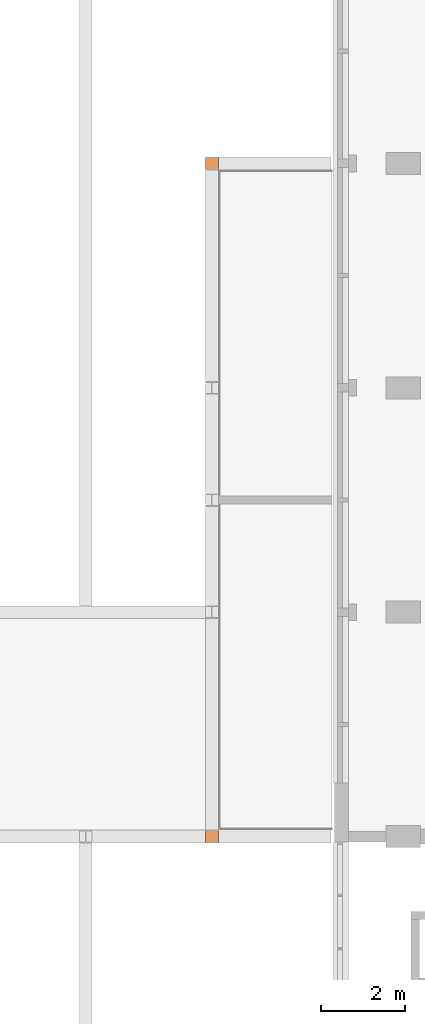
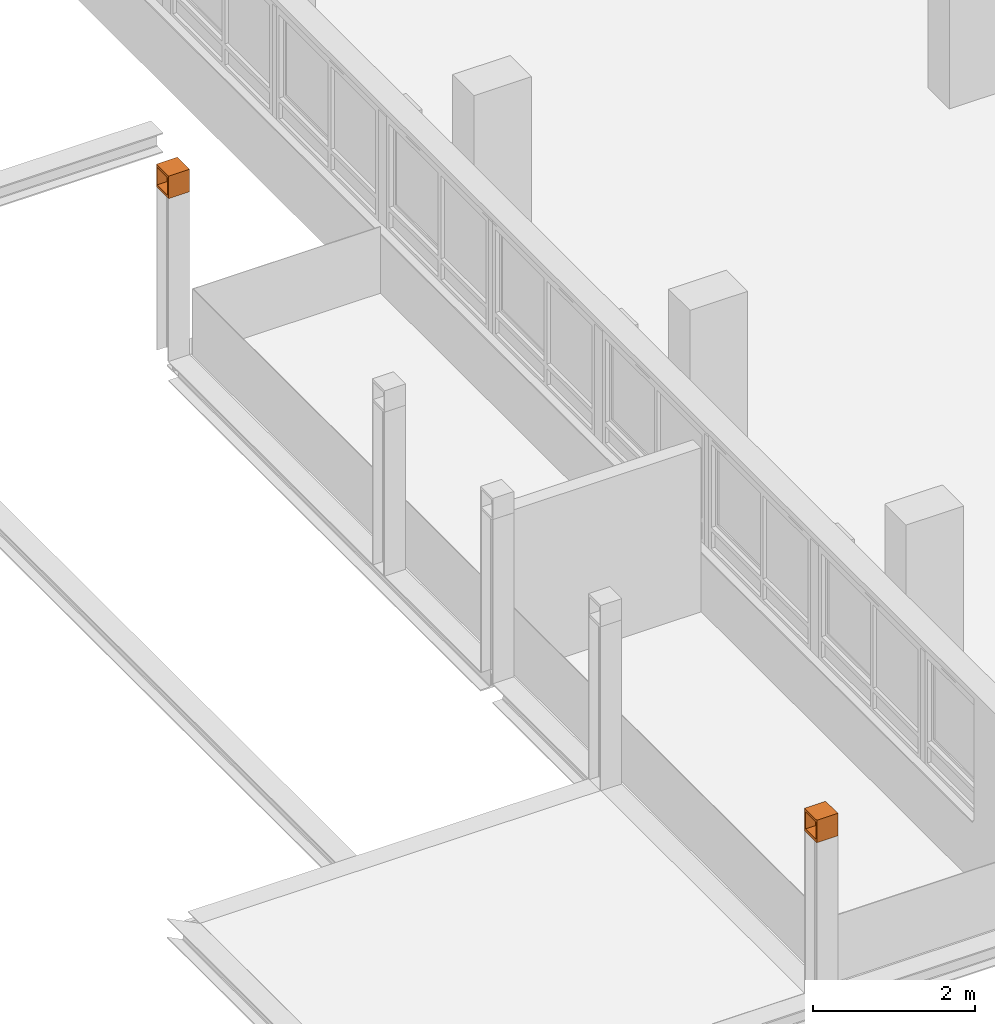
# One storey, part 22 of 22: 2 proxies.
"""IFC2X3 building model written with IfcOpenShell, lengths in millimetres."""

from ifc_helpers import new_model, entity, si_unit, converted_unit, derived_unit, money_unit, direction, frame, origin_with_axes, place, context, subcontext, project, spatial, faceted_brep, material, type_object, element, save


model = new_model("IFC2X3")

# Units and contexts
model_context = context("Model", 3, precision=0.01, world=origin_with_axes(), true_north=direction((0.0, 1.0)))
body_context = subcontext(model_context, "Body", "Model", "MODEL_VIEW")
ifc_project = project(units=[si_unit("LENGTHUNIT", "METRE", prefix="MILLI"), si_unit("AREAUNIT", "SQUARE_METRE"), si_unit("VOLUMEUNIT", "CUBIC_METRE"), converted_unit("PLANEANGLEUNIT", "DEGREE", entity("IfcPlaneAngleMeasure", 0.0174532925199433), si_unit("PLANEANGLEUNIT", "RADIAN"), dimensions=[0, 0, 0, 0, 0, 0, 0]), money_unit("EUR"), converted_unit("TIMEUNIT", "Year", entity("IfcTimeMeasure", 31557600.0), si_unit("TIMEUNIT", "SECOND"), dimensions=[0, 0, 1, 0, 0, 0, 0]), si_unit("MASSUNIT", "GRAM", prefix="KILO"), si_unit("THERMODYNAMICTEMPERATUREUNIT", "DEGREE_CELSIUS"), si_unit("LUMINOUSINTENSITYUNIT", "LUMEN"), si_unit("ENERGYUNIT", "JOULE", prefix="MEGA"), derived_unit("THERMALCONDUCTANCEUNIT", [(si_unit("POWERUNIT", "WATT"), 1), (si_unit("LENGTHUNIT", "METRE"), -1), (si_unit("THERMODYNAMICTEMPERATUREUNIT", "KELVIN"), -1)]), derived_unit("SPECIFICHEATCAPACITYUNIT", [(si_unit("ENERGYUNIT", "JOULE"), 1), (si_unit("MASSUNIT", "GRAM", prefix="KILO"), -1), (si_unit("THERMODYNAMICTEMPERATUREUNIT", "KELVIN"), -1)]), derived_unit("MASSDENSITYUNIT", [(si_unit("MASSUNIT", "GRAM", prefix="KILO"), 1), (si_unit("VOLUMEUNIT", "CUBIC_METRE"), -1)])], contexts=[model_context])

# Site, building, storey
site_placement = place(None, origin_with_axes())
site = spatial("IfcSite", under=ifc_project, at=site_placement, Name="Site", CompositionType="ELEMENT")
building_placement = place(site_placement, origin_with_axes())
building = spatial("IfcBuilding", under=site, at=building_placement, Name="Naam gebouw", CompositionType="ELEMENT")
storey_placement = place(building_placement, frame((0.0, 0.0, 8690.0), z_axis=(0.0, 0.0, 1.0), x_axis=(1.0, 0.0, 0.0)))
storey = spatial("IfcBuildingStorey", under=building, at=storey_placement, Name="2e verdieping V", CompositionType="ELEMENT", Elevation=8690.0)

# Proxies
ifc_material = material(Name="staal geanodiseerd RAL 7024")
building_element_proxy_type_1 = type_object("IfcBuildingElementProxyType", Name="Structural Connections 231:Structural Connections 1", PredefinedType="NOTDEFINED")
proxy_1_placement = place(storey_placement, frame((28651.00001269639, 22625.91242505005, -4539.999999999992), z_axis=(0.0, 0.0, 1.0), x_axis=(0.0, 1.0, 0.0)))
element("IfcBuildingElementProxy", 1, at=proxy_1_placement, inside=storey, type_object=building_element_proxy_type_1, material=ifc_material, Name="Structural Connections 231:Structural Connections 1", context=body_context, shape_type="Brep", body=[
    faceted_brep([(5180.000001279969, 11209.00001265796, 7010.0), (5480.00000127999, 11209.00001265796, 7010.0), (5480.00000127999, 11209.00001265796, 7029.999999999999), (5180.000001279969, 11209.00001265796, 7029.999999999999), (5180.000001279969, 11509.00001265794, 7010.0), (5480.00000127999, 11509.00001265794, 7010.0), (5480.00000127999, 11509.00001265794, 7029.999999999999), (5180.000001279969, 11509.00001265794, 7029.999999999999)], [[[0, 1, 2, 3]], [[0, 4, 5, 1]], [[1, 5, 6, 2]], [[3, 2, 6, 7]], [[4, 0, 3, 7]], [[5, 4, 7, 6]]]),
    faceted_brep([(5180.000001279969, 11209.00001265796, 7290.0), (5480.00000127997, 11209.00001265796, 7290.0), (5480.00000127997, 11209.00001265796, 7310.0), (5180.000001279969, 11209.00001265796, 7310.0), (5180.000001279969, 11509.00001265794, 7290.0), (5480.00000127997, 11509.00001265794, 7290.0), (5480.00000127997, 11509.00001265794, 7310.0), (5180.000001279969, 11509.00001265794, 7310.0)], [[[0, 1, 2, 3]], [[0, 4, 5, 1]], [[1, 5, 6, 2]], [[3, 2, 6, 7]], [[4, 0, 3, 7]], [[5, 4, 7, 6]]]),
    faceted_brep([(5180.000001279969, 11209.00001265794, 7310.000000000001), (5480.00000127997, 11209.00001265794, 7310.000000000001), (5480.00000127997, 11209.00001265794, 7330.0), (5180.000001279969, 11209.00001265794, 7330.0), (5180.000001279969, 11509.00001265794, 7310.000000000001), (5480.00000127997, 11509.00001265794, 7310.000000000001), (5480.00000127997, 11509.00001265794, 7330.0), (5180.000001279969, 11509.00001265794, 7330.0)], [[[0, 1, 2, 3]], [[0, 4, 5, 1]], [[1, 5, 6, 2]], [[3, 2, 6, 7]], [[4, 0, 3, 7]], [[5, 4, 7, 6]]]),
    faceted_brep([(5180.000001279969, 11209.00001265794, 6990.0), (5480.00000127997, 11209.00001265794, 6990.0), (5480.00000127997, 11209.00001265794, 7010.0), (5180.000001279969, 11209.00001265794, 7010.0), (5180.000001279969, 11509.00001265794, 6990.0), (5480.00000127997, 11509.00001265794, 6990.0), (5480.00000127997, 11509.00001265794, 7010.0), (5180.000001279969, 11509.00001265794, 7010.0)], [[[0, 1, 2, 3]], [[0, 4, 5, 1]], [[1, 5, 6, 2]], [[3, 2, 6, 7]], [[4, 0, 3, 7]], [[5, 4, 7, 6]]]),
    faceted_brep([(5199.00000127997, 11209.00001265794, 7310.000000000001), (5180.000001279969, 11209.00001265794, 7310.000000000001), (5180.000001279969, 11209.00001265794, 7010.000000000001), (5199.00000127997, 11209.00001265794, 7010.000000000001), (5199.00000127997, 11353.50001265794, 7310.000000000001), (5461.00000127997, 11353.50001265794, 7310.000000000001), (5461.00000127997, 11209.00001265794, 7310.000000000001), (5480.00000127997, 11209.00001265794, 7310.000000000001), (5480.00000127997, 11509.00001265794, 7310.000000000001), (5461.00000127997, 11509.00001265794, 7310.000000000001), (5461.00000127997, 11364.50001265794, 7310.000000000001), (5199.00000127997, 11364.50001265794, 7310.000000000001), (5199.00000127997, 11509.00001265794, 7310.000000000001), (5180.000001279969, 11509.00001265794, 7310.000000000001), (5180.000001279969, 11509.00001265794, 7010.000000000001), (5199.00000127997, 11509.00001265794, 7010.000000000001), (5199.00000127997, 11364.50001265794, 7010.000000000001), (5461.00000127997, 11364.50001265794, 7010.000000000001), (5461.00000127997, 11509.00001265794, 7010.000000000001), (5480.00000127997, 11509.00001265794, 7010.000000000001), (5480.00000127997, 11209.00001265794, 7010.000000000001), (5461.00000127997, 11209.00001265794, 7010.000000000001), (5461.00000127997, 11353.50001265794, 7010.000000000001), (5199.00000127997, 11353.50001265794, 7010.000000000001)], [[[0, 1, 2, 3]], [[0, 4, 5, 6, 7, 8, 9, 10, 11, 12, 13, 1]], [[1, 13, 14, 2]], [[3, 2, 14, 15, 16, 17, 18, 19, 20, 21, 22, 23]], [[4, 0, 3, 23]], [[5, 4, 23, 22]], [[6, 5, 22, 21]], [[7, 6, 21, 20]], [[8, 7, 20, 19]], [[9, 8, 19, 18]], [[10, 9, 18, 17]], [[11, 10, 17, 16]], [[12, 11, 16, 15]], [[13, 12, 15, 14]]]),
])
building_element_proxy_type_2 = type_object("IfcBuildingElementProxyType", Name="Structural Connections 232:Structural Connections 1", PredefinedType="NOTDEFINED")
proxy_2_placement = place(storey_placement, frame((28651.00001269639, 22625.91242505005, -4539.999999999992), z_axis=(0.0, 0.0, 1.0), x_axis=(0.0, 1.0, 0.0)))
element("IfcBuildingElementProxy", 2, at=proxy_2_placement, inside=storey, type_object=building_element_proxy_type_2, material=ifc_material, Name="Structural Connections 232:Structural Connections 1", context=body_context, shape_type="Brep", body=[
    faceted_brep([(21170.00000128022, 11509.00001265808, 7010.0), (21170.00000128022, 11209.0000126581, 7010.0), (21170.00000128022, 11209.0000126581, 7029.999999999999), (21170.00000128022, 11509.00001265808, 7029.999999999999), (21470.00000128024, 11509.00001265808, 7010.0), (21470.00000128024, 11209.0000126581, 7010.0), (21470.00000128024, 11209.0000126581, 7029.999999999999), (21470.00000128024, 11509.00001265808, 7029.999999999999)], [[[0, 1, 2, 3]], [[0, 4, 5, 1]], [[1, 5, 6, 2]], [[3, 2, 6, 7]], [[4, 0, 3, 7]], [[5, 4, 7, 6]]]),
    faceted_brep([(21170.00000128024, 11509.00001265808, 7290.0), (21170.00000128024, 11209.0000126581, 7290.0), (21170.00000128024, 11209.0000126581, 7310.0), (21170.00000128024, 11509.00001265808, 7310.0), (21470.00000128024, 11509.00001265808, 7290.0), (21470.00000128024, 11209.0000126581, 7290.0), (21470.00000128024, 11209.0000126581, 7310.0), (21470.00000128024, 11509.00001265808, 7310.0)], [[[0, 1, 2, 3]], [[0, 4, 5, 1]], [[1, 5, 6, 2]], [[3, 2, 6, 7]], [[4, 0, 3, 7]], [[5, 4, 7, 6]]]),
    faceted_brep([(21170.00000128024, 11509.00001265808, 7310.000000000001), (21170.00000128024, 11209.00001265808, 7310.000000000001), (21170.00000128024, 11209.00001265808, 7330.0), (21170.00000128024, 11509.00001265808, 7330.0), (21470.00000128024, 11509.00001265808, 7310.000000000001), (21470.00000128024, 11209.00001265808, 7310.000000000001), (21470.00000128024, 11209.00001265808, 7330.0), (21470.00000128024, 11509.00001265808, 7330.0)], [[[0, 1, 2, 3]], [[0, 4, 5, 1]], [[1, 5, 6, 2]], [[3, 2, 6, 7]], [[4, 0, 3, 7]], [[5, 4, 7, 6]]]),
    faceted_brep([(21170.00000128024, 11509.00001265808, 6990.0), (21170.00000128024, 11209.00001265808, 6990.0), (21170.00000128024, 11209.00001265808, 7010.0), (21170.00000128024, 11509.00001265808, 7010.0), (21470.00000128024, 11509.00001265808, 6990.0), (21470.00000128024, 11209.00001265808, 6990.0), (21470.00000128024, 11209.00001265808, 7010.0), (21470.00000128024, 11509.00001265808, 7010.0)], [[[0, 1, 2, 3]], [[0, 4, 5, 1]], [[1, 5, 6, 2]], [[3, 2, 6, 7]], [[4, 0, 3, 7]], [[5, 4, 7, 6]]]),
    faceted_brep([(21451.00000128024, 11209.00001265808, 7010.0), (21470.00000128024, 11209.00001265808, 7010.0), (21470.00000128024, 11209.00001265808, 7310.0), (21451.00000128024, 11209.00001265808, 7310.0), (21451.00000128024, 11353.50001265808, 7010.0), (21189.00000128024, 11353.50001265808, 7010.0), (21189.00000128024, 11209.00001265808, 7010.0), (21170.00000128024, 11209.00001265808, 7010.0), (21170.00000128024, 11509.00001265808, 7010.0), (21189.00000128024, 11509.00001265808, 7010.0), (21189.00000128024, 11364.50001265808, 7010.0), (21451.00000128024, 11364.50001265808, 7010.0), (21451.00000128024, 11509.00001265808, 7010.0), (21470.00000128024, 11509.00001265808, 7010.0), (21470.00000128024, 11509.00001265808, 7310.0), (21451.00000128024, 11509.00001265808, 7310.0), (21451.00000128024, 11364.50001265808, 7310.0), (21189.00000128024, 11364.50001265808, 7310.0), (21189.00000128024, 11509.00001265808, 7310.0), (21170.00000128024, 11509.00001265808, 7310.0), (21170.00000128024, 11209.00001265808, 7310.0), (21189.00000128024, 11209.00001265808, 7310.0), (21189.00000128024, 11353.50001265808, 7310.0), (21451.00000128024, 11353.50001265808, 7310.0)], [[[0, 1, 2, 3]], [[0, 4, 5, 6, 7, 8, 9, 10, 11, 12, 13, 1]], [[1, 13, 14, 2]], [[3, 2, 14, 15, 16, 17, 18, 19, 20, 21, 22, 23]], [[4, 0, 3, 23]], [[5, 4, 23, 22]], [[6, 5, 22, 21]], [[7, 6, 21, 20]], [[8, 7, 20, 19]], [[9, 8, 19, 18]], [[10, 9, 18, 17]], [[11, 10, 17, 16]], [[12, 11, 16, 15]], [[13, 12, 15, 14]]]),
])

save(model, "model.ifc")
